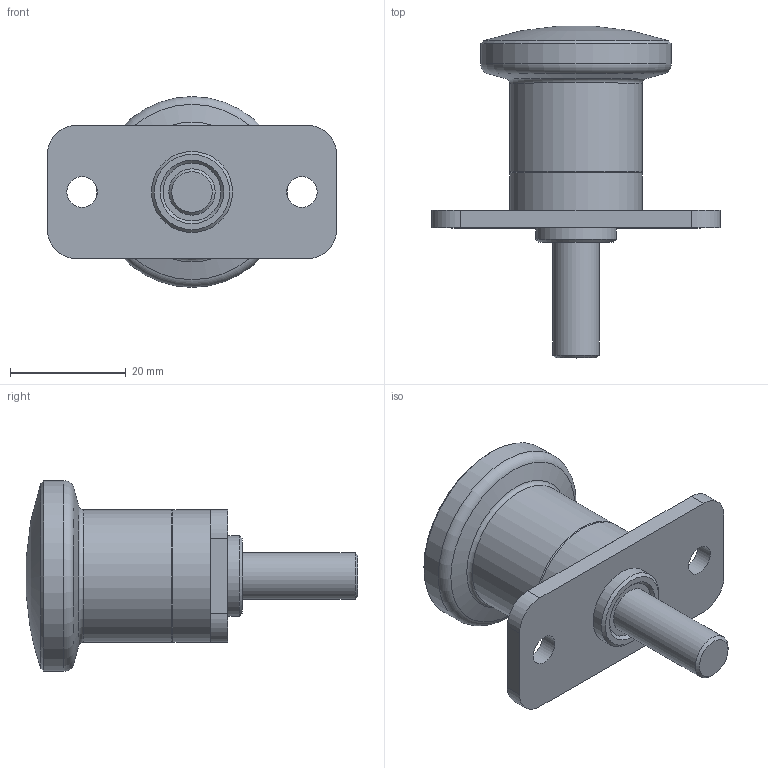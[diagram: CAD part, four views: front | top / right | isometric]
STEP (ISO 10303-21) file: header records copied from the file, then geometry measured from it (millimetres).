
FILE_DESCRIPTION( ( 'STEP AP203' ), '1' );
FILE_NAME( 'C:/Temp/Ganter_Step_05_03_2020/data/3_1/gn822_9/gn822_9_b/Stainless Steel-Mini indexing plunger GN 822.9-8-20-B (deactivated).stp', '2020-03-12T09:24:34', ( 'License CC BY-ND 4.0' ), ( 'CADENAS' ), ' ', 'PARTsolutions', ' ' );
FILE_SCHEMA( ( 'CONFIG_CONTROL_DESIGN' ) );
Length unit declared in the file: millimetre
Products named in the file (3): Stainless Steel-Mini indexing plunger GN 822.9-8-20-B (deactivated); _Stainless Steel-Mini indexing plunger GN 822.9-8-20-B (deactivated)_1; _Stainless Steel-Mini indexing plunger GN 822.9-8-20-B (unbetaetigt)_2
Assembly tree (2 placements, depth 2):
  Stainless Steel-Mini indexing plunger GN 822.9-8-20-B (deactivated)
    _Stainless Steel-Mini indexing plunger GN 822.9-8-20-B (deactivated)_1
    _Stainless Steel-Mini indexing plunger GN 822.9-8-20-B (unbetaetigt)_2
Bounding box: 50 x 57.42 x 33 mm (x, y, z)
Volume: 19794 mm3; surface area: 11643.2 mm2
Topology: 2 solids, 2 shells, 68 faces, 158 edges, 101 vertices
Faces by surface type: plane 35, cylinder 21, cone 8, torus 3, sphere 1
Full cylindrical faces by diameter (mm): 5.3 x2, 7.5 x2, 8 x1, 10 x2, 14 x1, 23 x2, 33 x1
Entity records: 2038 total; most frequent: CARTESIAN_POINT 453, DIRECTION 316, ORIENTED_EDGE 264, EDGE_CURVE 132, AXIS2_PLACEMENT_3D 125, EDGE_LOOP 104, VERTEX_POINT 98, FACE_OUTER_BOUND 83
